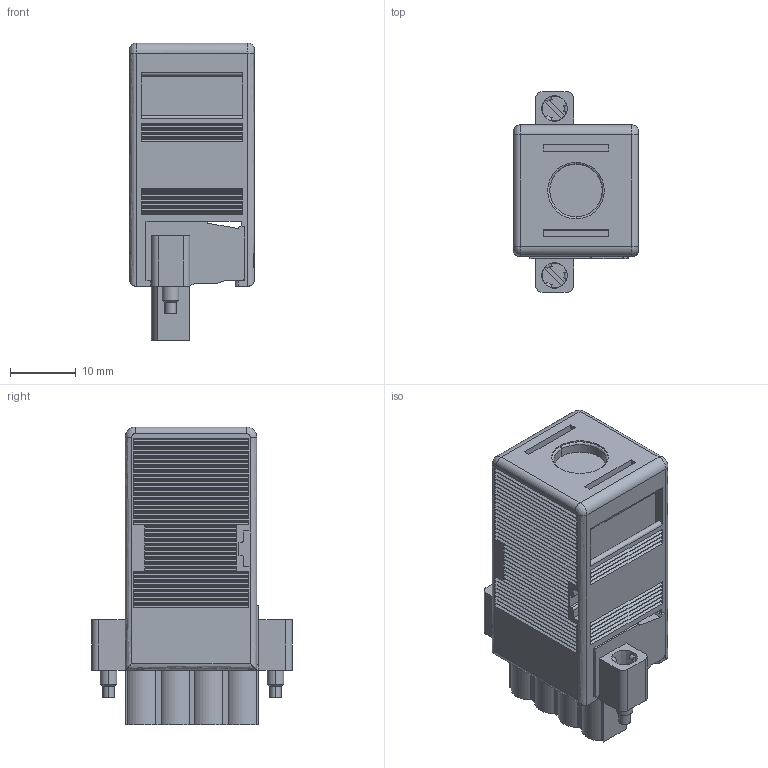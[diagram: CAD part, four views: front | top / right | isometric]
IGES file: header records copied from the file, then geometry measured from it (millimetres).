
Start section:  PTC IGES file: conn_crio_4_pos_cmbcn_tb.igs
Global section: file name: conn_crio_4_pos_cmbcn_tb.igs; native system: Pro/ENGINEER by Parametric Technology Corporation; preprocessor: 2006080; author: chrisj; organization: Unknown; date: 070125.134138; units: inch
Bounding box: 19 x 30.48 x 45.3 mm (x, y, z)
Surface area: 6195 mm2 (no closed solid volume)
Topology: 0 solids, 0 shells, 716 faces, 3475 edges, 3468 vertices
Faces by surface type: bspline 585, revolution 131
